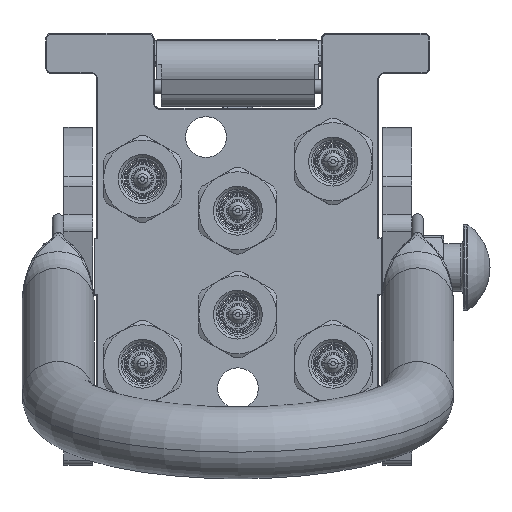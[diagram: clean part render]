
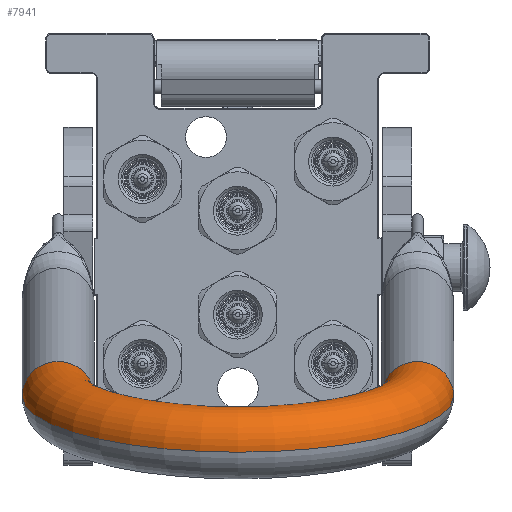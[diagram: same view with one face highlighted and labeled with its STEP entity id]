
A CAD part, front view. The second image highlights one B-rep face of the part: STEP entity #7941.
In plain terms, the highlighted toroidal (fillet/blend) face has major radius 62.25 mm and minor radius 12.5 mm.
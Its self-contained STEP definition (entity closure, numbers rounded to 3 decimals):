
#6645=CARTESIAN_POINT('',(0.,-177.688,-125.789));
#6646=DIRECTION('',(0.,-0.259,0.966));
#6647=DIRECTION('',(-1.,0.,0.));
#6648=AXIS2_PLACEMENT_3D('',#6645,#6646,#6647);
#6650=CARTESIAN_POINT('',(-62.25,-177.688,-125.789));
#6651=DIRECTION('',(0.,-0.966,-0.259));
#6652=DIRECTION('',(1.,0.,0.));
#6653=AXIS2_PLACEMENT_3D('',#6650,#6651,#6652);
#6655=CARTESIAN_POINT('',(0.,-177.688,-125.789));
#6656=DIRECTION('',(0.,-0.259,0.966));
#6657=DIRECTION('',(-1.,0.,0.));
#6658=AXIS2_PLACEMENT_3D('',#6655,#6656,#6657);
#6665=CARTESIAN_POINT('',(62.25,-177.688,-125.789));
#6666=DIRECTION('',(0.,0.966,0.259));
#6667=DIRECTION('',(-1.,0.,0.));
#6668=AXIS2_PLACEMENT_3D('',#6665,#6666,#6667);
#7032=CARTESIAN_POINT('',(-49.75,-177.688,-125.789));
#7033=CARTESIAN_POINT('',(-74.75,-177.688,-125.789));
#7034=VERTEX_POINT('',#7032);
#7035=VERTEX_POINT('',#7033);
#7077=CARTESIAN_POINT('',(49.75,-177.688,-125.789));
#7079=VERTEX_POINT('',#7077);
#7081=CARTESIAN_POINT('',(74.75,-177.688,-125.789));
#7083=VERTEX_POINT('',#7081);
#7929=CARTESIAN_POINT('',(0.,-177.688,-125.789));
#7930=DIRECTION('',(0.,-0.259,0.966));
#7931=DIRECTION('',(1.,0.,0.));
#7932=AXIS2_PLACEMENT_3D('',#7929,#7930,#7931);
#7933=TOROIDAL_SURFACE('',#7932,62.25,12.5);
#7934=ORIENTED_EDGE('',*,*,#7125,.F.);
#7935=ORIENTED_EDGE('',*,*,#7924,.T.);
#7937=ORIENTED_EDGE('',*,*,#7936,.T.);
#7938=ORIENTED_EDGE('',*,*,#7920,.F.);
#7939=EDGE_LOOP('',(#7934,#7935,#7937,#7938));
#7940=FACE_OUTER_BOUND('',#7939,.F.);
#6649=CIRCLE('',#6648,74.75);
#6654=CIRCLE('',#6653,12.5);
#6659=CIRCLE('',#6658,49.75);
#6669=CIRCLE('',#6668,12.5);
#7125=EDGE_CURVE('',#7034,#7035,#6654,.T.);
#7920=EDGE_CURVE('',#7035,#7083,#6649,.T.);
#7924=EDGE_CURVE('',#7034,#7079,#6659,.T.);
#7936=EDGE_CURVE('',#7079,#7083,#6669,.T.);
#7941=ADVANCED_FACE('',(#7940),#7933,.T.);
